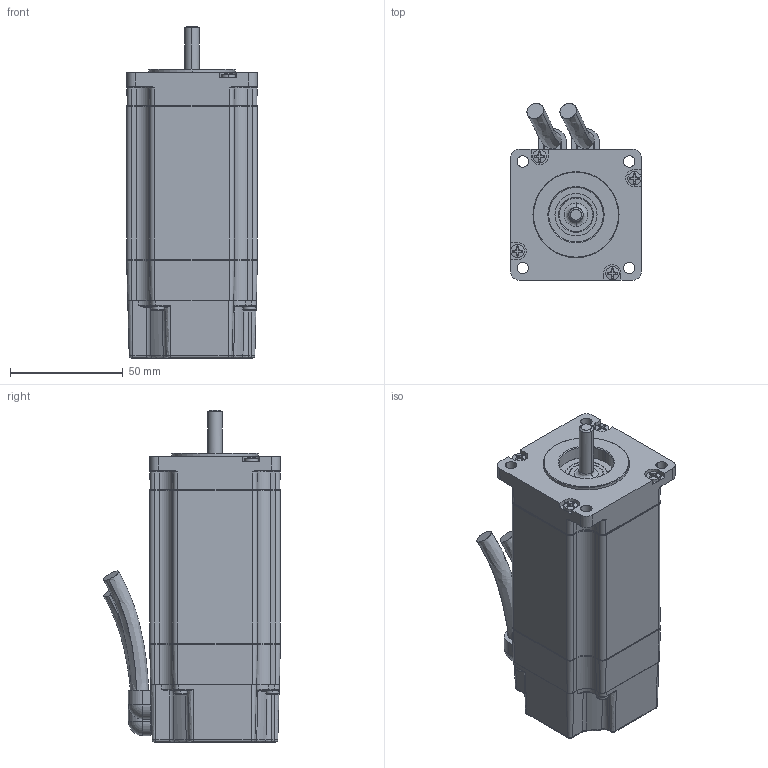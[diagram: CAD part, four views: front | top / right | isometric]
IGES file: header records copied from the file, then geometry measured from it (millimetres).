
Start section:  PTC IGES file: vlm22d.igs
Global section: file name: vlm22d.igs; native system: Pro/ENGINEER by Parametric Technology Corporation; preprocessor: 2006510; author: Ray.Dobbins; organization: Unknown; date: 20110715.133229; units: inch
Bounding box: 57.91 x 78.27 x 146.95 mm (x, y, z)
Surface area: 131295.9 mm2 (no closed solid volume)
Topology: 0 solids, 0 shells, 1806 faces, 9562 edges, 9552 vertices
Faces by surface type: revolution 1049, bspline 757
